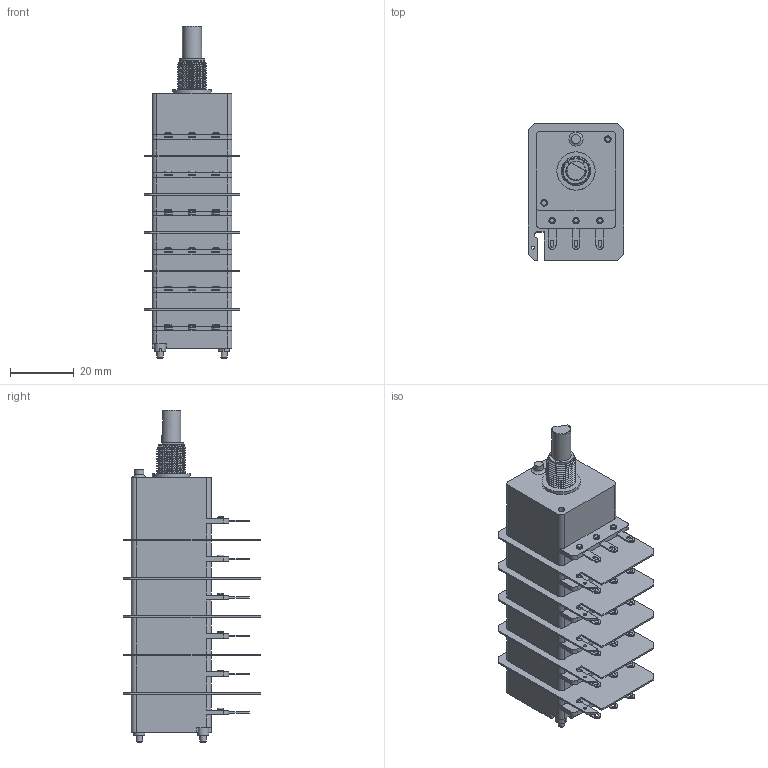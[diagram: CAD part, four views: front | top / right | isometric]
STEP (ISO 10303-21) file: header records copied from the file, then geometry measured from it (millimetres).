
FILE_DESCRIPTION(('FreeCAD Model'),'2;1');
FILE_NAME('Open CASCADE Shape Model','2026-07-15T11:03:40',(''),(''), 'Open CASCADE STEP processor 7.8','FreeCAD','Unknown');
FILE_SCHEMA(('AUTOMOTIVE_DESIGN { 1 0 10303 214 1 1 1 1 }'));
Length unit declared in the file: millimetre
Products named in the file (1): 6CP25XX-S-6F20
Bounding box: 30 x 43 x 104 mm (x, y, z)
Volume: 53005.8 mm3; surface area: 22156.3 mm2
Topology: 1 solids, 46 shells, 693 faces, 1581 edges, 1046 vertices
Faces by surface type: plane 402, cylinder 226, bspline 38, torus 21, cone 6
Full cylindrical faces by diameter (mm): 1 x5, 1.9 x2, 2 x46, 2.2 x32, 2.5 x4, 2.8 x1, 3.5 x2, 4.4 x1, 4.5 x6, 5.4 x1, 6 x1, 6.05 x1, 8 x1, 9 x5, 12 x1
Entity records: 25472 total; most frequent: CARTESIAN_POINT 7679, DIRECTION 3354, ORIENTED_EDGE 3160, EDGE_CURVE 1580, AXIS2_PLACEMENT_3D 1234, VERTEX_POINT 1046, LINE 886, VECTOR 886
